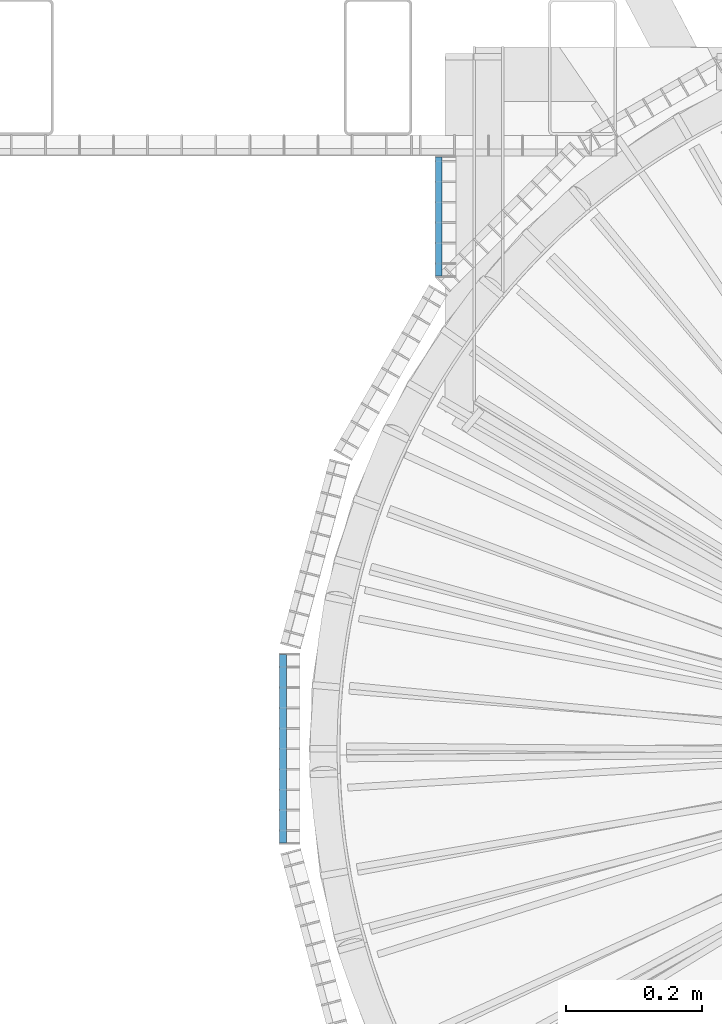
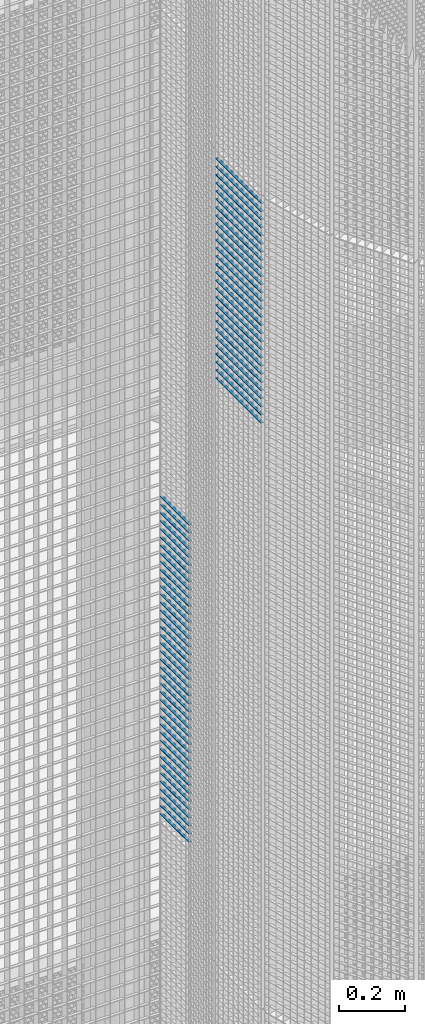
# One storey, part 194 of 1183: 68 beams, 2 elements without a shape of their own.
"""IFC2X3 building model written with IfcOpenShell, lengths in millimetres."""

from ifc_helpers import new_model, si_unit, frame, origin_with_axes, origin_2d_with_axis, place, context, subcontext, project, spatial, rectangle, extrude, material, type_object, element, aggregate, save


model = new_model("IFC2X3")

# Units and contexts
model_context = context("Model", 3, precision=1e-05, world=origin_with_axes())
body_context = subcontext(model_context, "Body", "Model", "MODEL_VIEW")
ifc_project = project(units=[si_unit("LENGTHUNIT", "METRE", prefix="MILLI"), si_unit("AREAUNIT", "SQUARE_METRE"), si_unit("VOLUMEUNIT", "CUBIC_METRE"), si_unit("MASSUNIT", "GRAM", prefix="KILO"), si_unit("TIMEUNIT", "SECOND"), si_unit("PLANEANGLEUNIT", "RADIAN"), si_unit("SOLIDANGLEUNIT", "STERADIAN"), si_unit("THERMODYNAMICTEMPERATUREUNIT", "DEGREE_CELSIUS"), si_unit("LUMINOUSINTENSITYUNIT", "LUMEN")], contexts=[model_context])

# Site, building, storey
site_placement = place(None, origin_with_axes())
site = spatial("IfcSite", under=ifc_project, at=site_placement, Name="Undefined", CompositionType="ELEMENT")
building_placement = place(site_placement, origin_with_axes())
building = spatial("IfcBuilding", under=site, at=building_placement, Name="Undefined", CompositionType="ELEMENT")
storey_placement = place(building_placement, origin_with_axes())
storey = spatial("IfcBuildingStorey", under=building, at=storey_placement, Name="Undefined", CompositionType="ELEMENT", Elevation=0.0)

# Assembly, beams
assembly_1_placement = place(storey_placement, origin_with_axes())
assembly_1 = element("IfcElementAssembly", 1, at=assembly_1_placement, inside=storey, Name="BORDURE", AssemblyPlace="NOTDEFINED", PredefinedType="NOTDEFINED")
ifc_material = material(Name="STEEL/S235JR")
beam_type = type_object("IfcBeamType", Name="PL2*10", PredefinedType="NOTDEFINED")
beam_1_placement = place(assembly_1_placement, frame((-884.882567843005, 867.99701719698, 13200.0), z_axis=(-1.0, 0.0, 0.0), x_axis=(0.0, -1.0, 0.0)))
beam_1 = element("IfcBeam", 2, at=beam_1_placement, type_object=beam_type, material=ifc_material, Name="ENTRETOISE", context=body_context, shape_type="SweptSolid", body=[
    extrude(rectangle(XDim=2.0, YDim=10.0, at=origin_2d_with_axis()), frame((174.109999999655, 0.0, 0.0), z_axis=(-1.0, 0.0, 0.0), x_axis=(0.0, -1.0, 0.0)), (0.0, 0.0, 1.0), 174.11),
])
beam_2_placement = place(assembly_1_placement, frame((-884.882567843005, 867.99701719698, 13170.0), z_axis=(-1.0, 0.0, 0.0), x_axis=(0.0, -1.0, 0.0)))
beam_2 = element("IfcBeam", 3, at=beam_2_placement, type_object=beam_type, material=ifc_material, Name="ENTRETOISE", context=body_context, shape_type="SweptSolid", body=[
    extrude(rectangle(XDim=2.0, YDim=10.0, at=origin_2d_with_axis()), frame((174.109999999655, 0.0, 0.0), z_axis=(-1.0, 0.0, 0.0), x_axis=(0.0, -1.0, 0.0)), (0.0, 0.0, 1.0), 174.11),
])
beam_3_placement = place(assembly_1_placement, frame((-884.882567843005, 867.99701719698, 13140.0), z_axis=(-1.0, 0.0, 0.0), x_axis=(0.0, -1.0, 0.0)))
beam_3 = element("IfcBeam", 4, at=beam_3_placement, type_object=beam_type, material=ifc_material, Name="ENTRETOISE", context=body_context, shape_type="SweptSolid", body=[
    extrude(rectangle(XDim=2.0, YDim=10.0, at=origin_2d_with_axis()), frame((174.109999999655, 0.0, 0.0), z_axis=(-1.0, 0.0, 0.0), x_axis=(0.0, -1.0, 0.0)), (0.0, 0.0, 1.0), 174.11),
])
beam_4_placement = place(assembly_1_placement, frame((-884.882567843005, 867.997017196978, 12720.0), z_axis=(-1.0, 0.0, 0.0), x_axis=(0.0, -1.0, 0.0)))
beam_4 = element("IfcBeam", 5, at=beam_4_placement, type_object=beam_type, material=ifc_material, Name="ENTRETOISE", context=body_context, shape_type="SweptSolid", body=[
    extrude(rectangle(XDim=2.0, YDim=10.0, at=origin_2d_with_axis()), frame((174.109999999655, 0.0, 0.0), z_axis=(-1.0, 0.0, 0.0), x_axis=(0.0, -1.0, 0.0)), (0.0, 0.0, 1.0), 174.11),
])
beam_5_placement = place(assembly_1_placement, frame((-884.882567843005, 867.997017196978, 12690.0), z_axis=(-1.0, 0.0, 0.0), x_axis=(0.0, -1.0, 0.0)))
beam_5 = element("IfcBeam", 6, at=beam_5_placement, type_object=beam_type, material=ifc_material, Name="ENTRETOISE", context=body_context, shape_type="SweptSolid", body=[
    extrude(rectangle(XDim=2.0, YDim=10.0, at=origin_2d_with_axis()), frame((174.109999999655, 0.0, 0.0), z_axis=(-1.0, 0.0, 0.0), x_axis=(0.0, -1.0, 0.0)), (0.0, 0.0, 1.0), 174.11),
])
beam_6_placement = place(assembly_1_placement, frame((-884.882567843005, 867.997017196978, 12750.0), z_axis=(-1.0, 0.0, 0.0), x_axis=(0.0, -1.0, 0.0)))
beam_6 = element("IfcBeam", 7, at=beam_6_placement, type_object=beam_type, material=ifc_material, Name="ENTRETOISE", context=body_context, shape_type="SweptSolid", body=[
    extrude(rectangle(XDim=2.0, YDim=10.0, at=origin_2d_with_axis()), frame((174.109999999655, 0.0, 0.0), z_axis=(-1.0, 0.0, 0.0), x_axis=(0.0, -1.0, 0.0)), (0.0, 0.0, 1.0), 174.11),
])
beam_7_placement = place(assembly_1_placement, frame((-884.882567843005, 867.997017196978, 12660.0), z_axis=(-1.0, 0.0, 0.0), x_axis=(0.0, -1.0, 0.0)))
beam_7 = element("IfcBeam", 8, at=beam_7_placement, type_object=beam_type, material=ifc_material, Name="ENTRETOISE", context=body_context, shape_type="SweptSolid", body=[
    extrude(rectangle(XDim=2.0, YDim=10.0, at=origin_2d_with_axis()), frame((174.109999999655, 0.0, 0.0), z_axis=(-1.0, 0.0, 0.0), x_axis=(0.0, -1.0, 0.0)), (0.0, 0.0, 1.0), 174.11),
])
beam_8_placement = place(assembly_1_placement, frame((-884.882567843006, 867.997017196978, 12630.0), z_axis=(-1.0, 0.0, 0.0), x_axis=(0.0, -1.0, 0.0)))
beam_8 = element("IfcBeam", 9, at=beam_8_placement, type_object=beam_type, material=ifc_material, Name="ENTRETOISE", context=body_context, shape_type="SweptSolid", body=[
    extrude(rectangle(XDim=2.0, YDim=10.0, at=origin_2d_with_axis()), frame((174.109999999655, 0.0, 0.0), z_axis=(-1.0, 0.0, 0.0), x_axis=(0.0, -1.0, 0.0)), (0.0, 0.0, 1.0), 174.11),
])
beam_9_placement = place(assembly_1_placement, frame((-884.882567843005, 867.997017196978, 12780.0), z_axis=(-1.0, 0.0, 0.0), x_axis=(0.0, -1.0, 0.0)))
beam_9 = element("IfcBeam", 10, at=beam_9_placement, type_object=beam_type, material=ifc_material, Name="ENTRETOISE", context=body_context, shape_type="SweptSolid", body=[
    extrude(rectangle(XDim=2.0, YDim=10.0, at=origin_2d_with_axis()), frame((174.109999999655, 0.0, 0.0), z_axis=(-1.0, 0.0, 0.0), x_axis=(0.0, -1.0, 0.0)), (0.0, 0.0, 1.0), 174.11),
])
beam_10_placement = place(assembly_1_placement, frame((-884.882567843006, 867.997017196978, 12600.0), z_axis=(-1.0, 0.0, 0.0), x_axis=(0.0, -1.0, 0.0)))
beam_10 = element("IfcBeam", 11, at=beam_10_placement, type_object=beam_type, material=ifc_material, Name="ENTRETOISE", context=body_context, shape_type="SweptSolid", body=[
    extrude(rectangle(XDim=2.0, YDim=10.0, at=origin_2d_with_axis()), frame((174.109999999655, 0.0, 0.0), z_axis=(-1.0, 0.0, 0.0), x_axis=(0.0, -1.0, 0.0)), (0.0, 0.0, 1.0), 174.11),
])
beam_11_placement = place(assembly_1_placement, frame((-884.882567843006, 867.997017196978, 12810.0), z_axis=(-1.0, 0.0, 0.0), x_axis=(0.0, -1.0, 0.0)))
beam_11 = element("IfcBeam", 12, at=beam_11_placement, type_object=beam_type, material=ifc_material, Name="ENTRETOISE", context=body_context, shape_type="SweptSolid", body=[
    extrude(rectangle(XDim=2.0, YDim=10.0, at=origin_2d_with_axis()), frame((174.109999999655, 0.0, 0.0), z_axis=(-1.0, 0.0, 0.0), x_axis=(0.0, -1.0, 0.0)), (0.0, 0.0, 1.0), 174.11),
])
beam_12_placement = place(assembly_1_placement, frame((-884.882567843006, 867.997017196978, 12570.0), z_axis=(-1.0, 0.0, 0.0), x_axis=(0.0, -1.0, 0.0)))
beam_12 = element("IfcBeam", 13, at=beam_12_placement, type_object=beam_type, material=ifc_material, Name="ENTRETOISE", context=body_context, shape_type="SweptSolid", body=[
    extrude(rectangle(XDim=2.0, YDim=10.0, at=origin_2d_with_axis()), frame((174.109999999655, 0.0, 0.0), z_axis=(-1.0, 0.0, 0.0), x_axis=(0.0, -1.0, 0.0)), (0.0, 0.0, 1.0), 174.11),
])
beam_13_placement = place(assembly_1_placement, frame((-884.882567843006, 867.997017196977, 12540.0), z_axis=(-1.0, 0.0, 0.0), x_axis=(0.0, -1.0, 0.0)))
beam_13 = element("IfcBeam", 14, at=beam_13_placement, type_object=beam_type, material=ifc_material, Name="ENTRETOISE", context=body_context, shape_type="SweptSolid", body=[
    extrude(rectangle(XDim=2.0, YDim=10.0, at=origin_2d_with_axis()), frame((174.109999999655, 0.0, 0.0), z_axis=(-1.0, 0.0, 0.0), x_axis=(0.0, -1.0, 0.0)), (0.0, 0.0, 1.0), 174.11),
])
beam_14_placement = place(assembly_1_placement, frame((-884.882567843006, 867.997017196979, 12840.0), z_axis=(-1.0, 0.0, 0.0), x_axis=(0.0, -1.0, 0.0)))
beam_14 = element("IfcBeam", 15, at=beam_14_placement, type_object=beam_type, material=ifc_material, Name="ENTRETOISE", context=body_context, shape_type="SweptSolid", body=[
    extrude(rectangle(XDim=2.0, YDim=10.0, at=origin_2d_with_axis()), frame((174.109999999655, 0.0, 0.0), z_axis=(-1.0, 0.0, 0.0), x_axis=(0.0, -1.0, 0.0)), (0.0, 0.0, 1.0), 174.11),
])
beam_15_placement = place(assembly_1_placement, frame((-884.882567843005, 867.997017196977, 12510.0), z_axis=(-1.0, 0.0, 0.0), x_axis=(0.0, -1.0, 0.0)))
beam_15 = element("IfcBeam", 16, at=beam_15_placement, type_object=beam_type, material=ifc_material, Name="ENTRETOISE", context=body_context, shape_type="SweptSolid", body=[
    extrude(rectangle(XDim=2.0, YDim=10.0, at=origin_2d_with_axis()), frame((174.109999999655, 0.0, 0.0), z_axis=(-1.0, 0.0, 0.0), x_axis=(0.0, -1.0, 0.0)), (0.0, 0.0, 1.0), 174.11),
])
beam_16_placement = place(assembly_1_placement, frame((-884.882567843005, 867.997017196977, 12480.0), z_axis=(-1.0, 0.0, 0.0), x_axis=(0.0, -1.0, 0.0)))
beam_16 = element("IfcBeam", 17, at=beam_16_placement, type_object=beam_type, material=ifc_material, Name="ENTRETOISE", context=body_context, shape_type="SweptSolid", body=[
    extrude(rectangle(XDim=2.0, YDim=10.0, at=origin_2d_with_axis()), frame((174.109999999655, 0.0, 0.0), z_axis=(-1.0, 0.0, 0.0), x_axis=(0.0, -1.0, 0.0)), (0.0, 0.0, 1.0), 174.11),
])
beam_17_placement = place(assembly_1_placement, frame((-884.882567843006, 867.997017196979, 12870.0), z_axis=(-1.0, 0.0, 0.0), x_axis=(0.0, -1.0, 0.0)))
beam_17 = element("IfcBeam", 18, at=beam_17_placement, type_object=beam_type, material=ifc_material, Name="ENTRETOISE", context=body_context, shape_type="SweptSolid", body=[
    extrude(rectangle(XDim=2.0, YDim=10.0, at=origin_2d_with_axis()), frame((174.109999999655, 0.0, 0.0), z_axis=(-1.0, 0.0, 0.0), x_axis=(0.0, -1.0, 0.0)), (0.0, 0.0, 1.0), 174.11),
])
beam_18_placement = place(assembly_1_placement, frame((-884.882567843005, 867.997017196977, 12450.0), z_axis=(-1.0, 0.0, 0.0), x_axis=(0.0, -1.0, 0.0)))
beam_18 = element("IfcBeam", 19, at=beam_18_placement, type_object=beam_type, material=ifc_material, Name="ENTRETOISE", context=body_context, shape_type="SweptSolid", body=[
    extrude(rectangle(XDim=2.0, YDim=10.0, at=origin_2d_with_axis()), frame((174.109999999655, 0.0, 0.0), z_axis=(-1.0, 0.0, 0.0), x_axis=(0.0, -1.0, 0.0)), (0.0, 0.0, 1.0), 174.11),
])
beam_19_placement = place(assembly_1_placement, frame((-884.882567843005, 867.997017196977, 12420.0), z_axis=(-1.0, 0.0, 0.0), x_axis=(0.0, -1.0, 0.0)))
beam_19 = element("IfcBeam", 20, at=beam_19_placement, type_object=beam_type, material=ifc_material, Name="ENTRETOISE", context=body_context, shape_type="SweptSolid", body=[
    extrude(rectangle(XDim=2.0, YDim=10.0, at=origin_2d_with_axis()), frame((174.109999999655, 0.0, 0.0), z_axis=(-1.0, 0.0, 0.0), x_axis=(0.0, -1.0, 0.0)), (0.0, 0.0, 1.0), 174.11),
])
beam_20_placement = place(assembly_1_placement, frame((-884.882567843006, 867.997017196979, 12900.0), z_axis=(-1.0, 0.0, 0.0), x_axis=(0.0, -1.0, 0.0)))
beam_20 = element("IfcBeam", 21, at=beam_20_placement, type_object=beam_type, material=ifc_material, Name="ENTRETOISE", context=body_context, shape_type="SweptSolid", body=[
    extrude(rectangle(XDim=2.0, YDim=10.0, at=origin_2d_with_axis()), frame((174.109999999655, 0.0, 0.0), z_axis=(-1.0, 0.0, 0.0), x_axis=(0.0, -1.0, 0.0)), (0.0, 0.0, 1.0), 174.11),
])
beam_21_placement = place(assembly_1_placement, frame((-884.882567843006, 867.997017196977, 12390.0), z_axis=(-1.0, 0.0, 0.0), x_axis=(0.0, -1.0, 0.0)))
beam_21 = element("IfcBeam", 22, at=beam_21_placement, type_object=beam_type, material=ifc_material, Name="ENTRETOISE", context=body_context, shape_type="SweptSolid", body=[
    extrude(rectangle(XDim=2.0, YDim=10.0, at=origin_2d_with_axis()), frame((174.109999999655, 0.0, 0.0), z_axis=(-1.0, 0.0, 0.0), x_axis=(0.0, -1.0, 0.0)), (0.0, 0.0, 1.0), 174.11),
])
beam_22_placement = place(assembly_1_placement, frame((-884.882567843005, 867.997017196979, 12930.0), z_axis=(-1.0, 0.0, 0.0), x_axis=(0.0, -1.0, 0.0)))
beam_22 = element("IfcBeam", 23, at=beam_22_placement, type_object=beam_type, material=ifc_material, Name="ENTRETOISE", context=body_context, shape_type="SweptSolid", body=[
    extrude(rectangle(XDim=2.0, YDim=10.0, at=origin_2d_with_axis()), frame((174.109999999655, 0.0, 0.0), z_axis=(-1.0, 0.0, 0.0), x_axis=(0.0, -1.0, 0.0)), (0.0, 0.0, 1.0), 174.11),
])
beam_23_placement = place(assembly_1_placement, frame((-884.882567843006, 867.997017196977, 12360.0), z_axis=(-1.0, 0.0, 0.0), x_axis=(0.0, -1.0, 0.0)))
beam_23 = element("IfcBeam", 24, at=beam_23_placement, type_object=beam_type, material=ifc_material, Name="ENTRETOISE", context=body_context, shape_type="SweptSolid", body=[
    extrude(rectangle(XDim=2.0, YDim=10.0, at=origin_2d_with_axis()), frame((174.109999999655, 0.0, 0.0), z_axis=(-1.0, 0.0, 0.0), x_axis=(0.0, -1.0, 0.0)), (0.0, 0.0, 1.0), 174.11),
])
beam_24_placement = place(assembly_1_placement, frame((-884.882567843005, 867.997017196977, 12330.0), z_axis=(-1.0, 0.0, 0.0), x_axis=(0.0, -1.0, 0.0)))
beam_24 = element("IfcBeam", 25, at=beam_24_placement, type_object=beam_type, material=ifc_material, Name="ENTRETOISE", context=body_context, shape_type="SweptSolid", body=[
    extrude(rectangle(XDim=2.0, YDim=10.0, at=origin_2d_with_axis()), frame((174.109999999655, 0.0, 0.0), z_axis=(-1.0, 0.0, 0.0), x_axis=(0.0, -1.0, 0.0)), (0.0, 0.0, 1.0), 174.11),
])
beam_25_placement = place(assembly_1_placement, frame((-884.882567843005, 867.997017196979, 12960.0), z_axis=(-1.0, 0.0, 0.0), x_axis=(0.0, -1.0, 0.0)))
beam_25 = element("IfcBeam", 26, at=beam_25_placement, type_object=beam_type, material=ifc_material, Name="ENTRETOISE", context=body_context, shape_type="SweptSolid", body=[
    extrude(rectangle(XDim=2.0, YDim=10.0, at=origin_2d_with_axis()), frame((174.109999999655, 0.0, 0.0), z_axis=(-1.0, 0.0, 0.0), x_axis=(0.0, -1.0, 0.0)), (0.0, 0.0, 1.0), 174.11),
])
beam_26_placement = place(assembly_1_placement, frame((-884.882567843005, 867.997017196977, 12300.0), z_axis=(-1.0, 0.0, 0.0), x_axis=(0.0, -1.0, 0.0)))
beam_26 = element("IfcBeam", 27, at=beam_26_placement, type_object=beam_type, material=ifc_material, Name="ENTRETOISE", context=body_context, shape_type="SweptSolid", body=[
    extrude(rectangle(XDim=2.0, YDim=10.0, at=origin_2d_with_axis()), frame((174.109999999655, 0.0, 0.0), z_axis=(-1.0, 0.0, 0.0), x_axis=(0.0, -1.0, 0.0)), (0.0, 0.0, 1.0), 174.11),
])
beam_27_placement = place(assembly_1_placement, frame((-884.882567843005, 867.997017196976, 12270.0), z_axis=(-1.0, 0.0, 0.0), x_axis=(0.0, -1.0, 0.0)))
beam_27 = element("IfcBeam", 28, at=beam_27_placement, type_object=beam_type, material=ifc_material, Name="ENTRETOISE", context=body_context, shape_type="SweptSolid", body=[
    extrude(rectangle(XDim=2.0, YDim=10.0, at=origin_2d_with_axis()), frame((174.109999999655, 0.0, 0.0), z_axis=(-1.0, 0.0, 0.0), x_axis=(0.0, -1.0, 0.0)), (0.0, 0.0, 1.0), 174.11),
])
beam_28_placement = place(assembly_1_placement, frame((-884.882567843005, 867.997017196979, 12990.0), z_axis=(-1.0, 0.0, 0.0), x_axis=(0.0, -1.0, 0.0)))
beam_28 = element("IfcBeam", 29, at=beam_28_placement, type_object=beam_type, material=ifc_material, Name="ENTRETOISE", context=body_context, shape_type="SweptSolid", body=[
    extrude(rectangle(XDim=2.0, YDim=10.0, at=origin_2d_with_axis()), frame((174.109999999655, 0.0, 0.0), z_axis=(-1.0, 0.0, 0.0), x_axis=(0.0, -1.0, 0.0)), (0.0, 0.0, 1.0), 174.11),
])
beam_29_placement = place(assembly_1_placement, frame((-884.882567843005, 867.997017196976, 12240.0), z_axis=(-1.0, 0.0, 0.0), x_axis=(0.0, -1.0, 0.0)))
beam_29 = element("IfcBeam", 30, at=beam_29_placement, type_object=beam_type, material=ifc_material, Name="ENTRETOISE", context=body_context, shape_type="SweptSolid", body=[
    extrude(rectangle(XDim=2.0, YDim=10.0, at=origin_2d_with_axis()), frame((174.109999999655, 0.0, 0.0), z_axis=(-1.0, 0.0, 0.0), x_axis=(0.0, -1.0, 0.0)), (0.0, 0.0, 1.0), 174.11),
])
beam_30_placement = place(assembly_1_placement, frame((-884.882567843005, 867.997017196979, 13020.0), z_axis=(-1.0, 0.0, 0.0), x_axis=(0.0, -1.0, 0.0)))
beam_30 = element("IfcBeam", 31, at=beam_30_placement, type_object=beam_type, material=ifc_material, Name="ENTRETOISE", context=body_context, shape_type="SweptSolid", body=[
    extrude(rectangle(XDim=2.0, YDim=10.0, at=origin_2d_with_axis()), frame((174.109999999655, 0.0, 0.0), z_axis=(-1.0, 0.0, 0.0), x_axis=(0.0, -1.0, 0.0)), (0.0, 0.0, 1.0), 174.11),
])
beam_31_placement = place(assembly_1_placement, frame((-884.882567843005, 867.997017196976, 12210.0), z_axis=(-1.0, 0.0, 0.0), x_axis=(0.0, -1.0, 0.0)))
beam_31 = element("IfcBeam", 32, at=beam_31_placement, type_object=beam_type, material=ifc_material, Name="ENTRETOISE", context=body_context, shape_type="SweptSolid", body=[
    extrude(rectangle(XDim=2.0, YDim=10.0, at=origin_2d_with_axis()), frame((174.109999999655, 0.0, 0.0), z_axis=(-1.0, 0.0, 0.0), x_axis=(0.0, -1.0, 0.0)), (0.0, 0.0, 1.0), 174.11),
])
beam_32_placement = place(assembly_1_placement, frame((-884.882567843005, 867.997017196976, 12180.0), z_axis=(-1.0, 0.0, 0.0), x_axis=(0.0, -1.0, 0.0)))
beam_32 = element("IfcBeam", 33, at=beam_32_placement, type_object=beam_type, material=ifc_material, Name="ENTRETOISE", context=body_context, shape_type="SweptSolid", body=[
    extrude(rectangle(XDim=2.0, YDim=10.0, at=origin_2d_with_axis()), frame((174.109999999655, 0.0, 0.0), z_axis=(-1.0, 0.0, 0.0), x_axis=(0.0, -1.0, 0.0)), (0.0, 0.0, 1.0), 174.11),
])
beam_33_placement = place(assembly_1_placement, frame((-884.882567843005, 867.997017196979, 13050.0), z_axis=(-1.0, 0.0, 0.0), x_axis=(0.0, -1.0, 0.0)))
beam_33 = element("IfcBeam", 34, at=beam_33_placement, type_object=beam_type, material=ifc_material, Name="ENTRETOISE", context=body_context, shape_type="SweptSolid", body=[
    extrude(rectangle(XDim=2.0, YDim=10.0, at=origin_2d_with_axis()), frame((174.109999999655, 0.0, 0.0), z_axis=(-1.0, 0.0, 0.0), x_axis=(0.0, -1.0, 0.0)), (0.0, 0.0, 1.0), 174.11),
])
beam_34_placement = place(assembly_1_placement, frame((-884.882567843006, 867.997017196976, 12150.0), z_axis=(-1.0, 0.0, 0.0), x_axis=(0.0, -1.0, 0.0)))
beam_34 = element("IfcBeam", 35, at=beam_34_placement, type_object=beam_type, material=ifc_material, Name="ENTRETOISE", context=body_context, shape_type="SweptSolid", body=[
    extrude(rectangle(XDim=2.0, YDim=10.0, at=origin_2d_with_axis()), frame((174.109999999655, 0.0, 0.0), z_axis=(-1.0, 0.0, 0.0), x_axis=(0.0, -1.0, 0.0)), (0.0, 0.0, 1.0), 174.11),
])
beam_35_placement = place(assembly_1_placement, frame((-884.882567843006, 867.997017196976, 12120.0), z_axis=(-1.0, 0.0, 0.0), x_axis=(0.0, -1.0, 0.0)))
beam_35 = element("IfcBeam", 36, at=beam_35_placement, type_object=beam_type, material=ifc_material, Name="ENTRETOISE", context=body_context, shape_type="SweptSolid", body=[
    extrude(rectangle(XDim=2.0, YDim=10.0, at=origin_2d_with_axis()), frame((174.109999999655, 0.0, 0.0), z_axis=(-1.0, 0.0, 0.0), x_axis=(0.0, -1.0, 0.0)), (0.0, 0.0, 1.0), 174.11),
])
beam_36_placement = place(assembly_1_placement, frame((-884.882567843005, 867.997017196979, 13080.0), z_axis=(-1.0, 0.0, 0.0), x_axis=(0.0, -1.0, 0.0)))
beam_36 = element("IfcBeam", 37, at=beam_36_placement, type_object=beam_type, material=ifc_material, Name="ENTRETOISE", context=body_context, shape_type="SweptSolid", body=[
    extrude(rectangle(XDim=2.0, YDim=10.0, at=origin_2d_with_axis()), frame((174.109999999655, 0.0, 0.0), z_axis=(-1.0, 0.0, 0.0), x_axis=(0.0, -1.0, 0.0)), (0.0, 0.0, 1.0), 174.11),
])
beam_37_placement = place(assembly_1_placement, frame((-884.882567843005, 867.997017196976, 12090.0), z_axis=(-1.0, 0.0, 0.0), x_axis=(0.0, -1.0, 0.0)))
beam_37 = element("IfcBeam", 38, at=beam_37_placement, type_object=beam_type, material=ifc_material, Name="ENTRETOISE", context=body_context, shape_type="SweptSolid", body=[
    extrude(rectangle(XDim=2.0, YDim=10.0, at=origin_2d_with_axis()), frame((174.109999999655, 0.0, 0.0), z_axis=(-1.0, 0.0, 0.0), x_axis=(0.0, -1.0, 0.0)), (0.0, 0.0, 1.0), 174.11),
])
beam_38_placement = place(assembly_1_placement, frame((-884.882567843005, 867.997017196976, 12060.0), z_axis=(-1.0, 0.0, 0.0), x_axis=(0.0, -1.0, 0.0)))
beam_38 = element("IfcBeam", 39, at=beam_38_placement, type_object=beam_type, material=ifc_material, Name="ENTRETOISE", context=body_context, shape_type="SweptSolid", body=[
    extrude(rectangle(XDim=2.0, YDim=10.0, at=origin_2d_with_axis()), frame((174.109999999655, 0.0, 0.0), z_axis=(-1.0, 0.0, 0.0), x_axis=(0.0, -1.0, 0.0)), (0.0, 0.0, 1.0), 174.11),
])
beam_39_placement = place(assembly_1_placement, frame((-884.882567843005, 867.99701719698, 13110.0), z_axis=(-1.0, 0.0, 0.0), x_axis=(0.0, -1.0, 0.0)))
beam_39 = element("IfcBeam", 40, at=beam_39_placement, type_object=beam_type, material=ifc_material, Name="ENTRETOISE", context=body_context, shape_type="SweptSolid", body=[
    extrude(rectangle(XDim=2.0, YDim=10.0, at=origin_2d_with_axis()), frame((174.109999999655, 0.0, 0.0), z_axis=(-1.0, 0.0, 0.0), x_axis=(0.0, -1.0, 0.0)), (0.0, 0.0, 1.0), 174.11),
])
beam_40_placement = place(assembly_1_placement, frame((-884.882567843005, 867.997017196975, 12030.0), z_axis=(-1.0, 0.0, 0.0), x_axis=(0.0, -1.0, 0.0)))
beam_40 = element("IfcBeam", 41, at=beam_40_placement, type_object=beam_type, material=ifc_material, Name="ENTRETOISE", context=body_context, shape_type="SweptSolid", body=[
    extrude(rectangle(XDim=2.0, YDim=10.0, at=origin_2d_with_axis()), frame((174.109999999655, 0.0, 0.0), z_axis=(-1.0, 0.0, 0.0), x_axis=(0.0, -1.0, 0.0)), (0.0, 0.0, 1.0), 174.11),
])
aggregate(assembly_1, [beam_1, beam_2, beam_3, beam_4, beam_5, beam_6, beam_7, beam_8, beam_9, beam_10, beam_11, beam_12, beam_13, beam_14, beam_15, beam_16, beam_17, beam_18, beam_19, beam_20, beam_21, beam_22, beam_23, beam_24, beam_25, beam_26, beam_27, beam_28, beam_29, beam_30, beam_31, beam_32, beam_33, beam_34, beam_35, beam_36, beam_37, beam_38, beam_39, beam_40])

assembly_2_placement = place(storey_placement, origin_with_axes())
assembly_2 = element("IfcElementAssembly", 42, at=assembly_2_placement, inside=storey, Name="BORDURE", AssemblyPlace="NOTDEFINED", PredefinedType="NOTDEFINED")
beam_41_placement = place(assembly_2_placement, frame((-1113.47999999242, 137.996003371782, 14970.0), z_axis=(-1.0, 0.0, 0.0), x_axis=(0.0, -1.0, 0.0)))
beam_41 = element("IfcBeam", 43, at=beam_41_placement, type_object=beam_type, material=ifc_material, Name="ENTRETOISE", context=body_context, shape_type="SweptSolid", body=[
    extrude(rectangle(XDim=2.0, YDim=10.0, at=origin_2d_with_axis()), frame((275.999999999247, 9.09494701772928e-13, 1.53210777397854e-14), z_axis=(-1.0, 0.0, 0.0), x_axis=(0.0, -1.0, 0.0)), (0.0, 0.0, 1.0), 276.0),
])
beam_42_placement = place(assembly_2_placement, frame((-1113.47999999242, 137.996003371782, 14940.0), z_axis=(-1.0, 0.0, 0.0), x_axis=(0.0, -1.0, 0.0)))
beam_42 = element("IfcBeam", 44, at=beam_42_placement, type_object=beam_type, material=ifc_material, Name="ENTRETOISE", context=body_context, shape_type="SweptSolid", body=[
    extrude(rectangle(XDim=2.0, YDim=10.0, at=origin_2d_with_axis()), frame((275.999999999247, 9.09494701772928e-13, 1.53210777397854e-14), z_axis=(-1.0, 0.0, 0.0), x_axis=(0.0, -1.0, 0.0)), (0.0, 0.0, 1.0), 276.0),
])
beam_43_placement = place(assembly_2_placement, frame((-1113.47999999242, 137.996003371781, 14910.0), z_axis=(-1.0, 0.0, 0.0), x_axis=(0.0, -1.0, 0.0)))
beam_43 = element("IfcBeam", 45, at=beam_43_placement, type_object=beam_type, material=ifc_material, Name="ENTRETOISE", context=body_context, shape_type="SweptSolid", body=[
    extrude(rectangle(XDim=2.0, YDim=10.0, at=origin_2d_with_axis()), frame((275.999999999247, 9.09494701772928e-13, 1.53210777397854e-14), z_axis=(-1.0, 0.0, 0.0), x_axis=(0.0, -1.0, 0.0)), (0.0, 0.0, 1.0), 276.0),
])
beam_44_placement = place(assembly_2_placement, frame((-1113.47999999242, 137.996003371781, 14880.0), z_axis=(-1.0, 0.0, 0.0), x_axis=(0.0, -1.0, 0.0)))
beam_44 = element("IfcBeam", 46, at=beam_44_placement, type_object=beam_type, material=ifc_material, Name="ENTRETOISE", context=body_context, shape_type="SweptSolid", body=[
    extrude(rectangle(XDim=2.0, YDim=10.0, at=origin_2d_with_axis()), frame((275.999999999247, 9.09494701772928e-13, 1.53210777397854e-14), z_axis=(-1.0, 0.0, 0.0), x_axis=(0.0, -1.0, 0.0)), (0.0, 0.0, 1.0), 276.0),
])
beam_45_placement = place(assembly_2_placement, frame((-1113.47999999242, 137.996003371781, 14850.0), z_axis=(-1.0, 0.0, 0.0), x_axis=(0.0, -1.0, 0.0)))
beam_45 = element("IfcBeam", 47, at=beam_45_placement, type_object=beam_type, material=ifc_material, Name="ENTRETOISE", context=body_context, shape_type="SweptSolid", body=[
    extrude(rectangle(XDim=2.0, YDim=10.0, at=origin_2d_with_axis()), frame((275.999999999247, 9.09494701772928e-13, 1.53210777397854e-14), z_axis=(-1.0, 0.0, 0.0), x_axis=(0.0, -1.0, 0.0)), (0.0, 0.0, 1.0), 276.0),
])
beam_46_placement = place(assembly_2_placement, frame((-1113.47999999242, 137.996003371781, 14820.0), z_axis=(-1.0, 0.0, 0.0), x_axis=(0.0, -1.0, 0.0)))
beam_46 = element("IfcBeam", 48, at=beam_46_placement, type_object=beam_type, material=ifc_material, Name="ENTRETOISE", context=body_context, shape_type="SweptSolid", body=[
    extrude(rectangle(XDim=2.0, YDim=10.0, at=origin_2d_with_axis()), frame((275.999999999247, 9.09494701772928e-13, 1.53210777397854e-14), z_axis=(-1.0, 0.0, 0.0), x_axis=(0.0, -1.0, 0.0)), (0.0, 0.0, 1.0), 276.0),
])
beam_47_placement = place(assembly_2_placement, frame((-1113.47999999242, 137.996003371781, 14790.0), z_axis=(-1.0, 0.0, 0.0), x_axis=(0.0, -1.0, 0.0)))
beam_47 = element("IfcBeam", 49, at=beam_47_placement, type_object=beam_type, material=ifc_material, Name="ENTRETOISE", context=body_context, shape_type="SweptSolid", body=[
    extrude(rectangle(XDim=2.0, YDim=10.0, at=origin_2d_with_axis()), frame((275.999999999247, 9.09494701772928e-13, 1.53210777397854e-14), z_axis=(-1.0, 0.0, 0.0), x_axis=(0.0, -1.0, 0.0)), (0.0, 0.0, 1.0), 276.0),
])
beam_48_placement = place(assembly_2_placement, frame((-1113.47999999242, 137.996003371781, 14760.0), z_axis=(-1.0, 0.0, 0.0), x_axis=(0.0, -1.0, 0.0)))
beam_48 = element("IfcBeam", 50, at=beam_48_placement, type_object=beam_type, material=ifc_material, Name="ENTRETOISE", context=body_context, shape_type="SweptSolid", body=[
    extrude(rectangle(XDim=2.0, YDim=10.0, at=origin_2d_with_axis()), frame((275.999999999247, 9.09494701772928e-13, 1.53210777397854e-14), z_axis=(-1.0, 0.0, 0.0), x_axis=(0.0, -1.0, 0.0)), (0.0, 0.0, 1.0), 276.0),
])
beam_49_placement = place(assembly_2_placement, frame((-1113.47999999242, 137.996003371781, 14730.0), z_axis=(-1.0, 0.0, 0.0), x_axis=(0.0, -1.0, 0.0)))
beam_49 = element("IfcBeam", 51, at=beam_49_placement, type_object=beam_type, material=ifc_material, Name="ENTRETOISE", context=body_context, shape_type="SweptSolid", body=[
    extrude(rectangle(XDim=2.0, YDim=10.0, at=origin_2d_with_axis()), frame((275.999999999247, 9.09494701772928e-13, 1.53210777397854e-14), z_axis=(-1.0, 0.0, 0.0), x_axis=(0.0, -1.0, 0.0)), (0.0, 0.0, 1.0), 276.0),
])
beam_50_placement = place(assembly_2_placement, frame((-1113.47999999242, 137.996003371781, 14700.0), z_axis=(-1.0, 0.0, 0.0), x_axis=(0.0, -1.0, 0.0)))
beam_50 = element("IfcBeam", 52, at=beam_50_placement, type_object=beam_type, material=ifc_material, Name="ENTRETOISE", context=body_context, shape_type="SweptSolid", body=[
    extrude(rectangle(XDim=2.0, YDim=10.0, at=origin_2d_with_axis()), frame((275.999999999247, 9.09494701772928e-13, 1.53210777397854e-14), z_axis=(-1.0, 0.0, 0.0), x_axis=(0.0, -1.0, 0.0)), (0.0, 0.0, 1.0), 276.0),
])
beam_51_placement = place(assembly_2_placement, frame((-1113.47999999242, 137.996003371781, 14670.0), z_axis=(-1.0, 0.0, 0.0), x_axis=(0.0, -1.0, 0.0)))
beam_51 = element("IfcBeam", 53, at=beam_51_placement, type_object=beam_type, material=ifc_material, Name="ENTRETOISE", context=body_context, shape_type="SweptSolid", body=[
    extrude(rectangle(XDim=2.0, YDim=10.0, at=origin_2d_with_axis()), frame((275.999999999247, 9.09494701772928e-13, 1.53210777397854e-14), z_axis=(-1.0, 0.0, 0.0), x_axis=(0.0, -1.0, 0.0)), (0.0, 0.0, 1.0), 276.0),
])
beam_52_placement = place(assembly_2_placement, frame((-1113.47999999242, 137.99600337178, 14640.0), z_axis=(-1.0, 0.0, 0.0), x_axis=(0.0, -1.0, 0.0)))
beam_52 = element("IfcBeam", 54, at=beam_52_placement, type_object=beam_type, material=ifc_material, Name="ENTRETOISE", context=body_context, shape_type="SweptSolid", body=[
    extrude(rectangle(XDim=2.0, YDim=10.0, at=origin_2d_with_axis()), frame((275.999999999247, 9.09494701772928e-13, 1.53210777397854e-14), z_axis=(-1.0, 0.0, 0.0), x_axis=(0.0, -1.0, 0.0)), (0.0, 0.0, 1.0), 276.0),
])
beam_53_placement = place(assembly_2_placement, frame((-1113.47999999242, 137.99600337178, 14610.0), z_axis=(-1.0, 0.0, 0.0), x_axis=(0.0, -1.0, 0.0)))
beam_53 = element("IfcBeam", 55, at=beam_53_placement, type_object=beam_type, material=ifc_material, Name="ENTRETOISE", context=body_context, shape_type="SweptSolid", body=[
    extrude(rectangle(XDim=2.0, YDim=10.0, at=origin_2d_with_axis()), frame((275.999999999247, 9.09494701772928e-13, 1.53210777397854e-14), z_axis=(-1.0, 0.0, 0.0), x_axis=(0.0, -1.0, 0.0)), (0.0, 0.0, 1.0), 276.0),
])
beam_54_placement = place(assembly_2_placement, frame((-1113.47999999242, 137.99600337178, 14580.0), z_axis=(-1.0, 0.0, 0.0), x_axis=(0.0, -1.0, 0.0)))
beam_54 = element("IfcBeam", 56, at=beam_54_placement, type_object=beam_type, material=ifc_material, Name="ENTRETOISE", context=body_context, shape_type="SweptSolid", body=[
    extrude(rectangle(XDim=2.0, YDim=10.0, at=origin_2d_with_axis()), frame((275.999999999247, 9.09494701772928e-13, 1.53210777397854e-14), z_axis=(-1.0, 0.0, 0.0), x_axis=(0.0, -1.0, 0.0)), (0.0, 0.0, 1.0), 276.0),
])
beam_55_placement = place(assembly_2_placement, frame((-1113.47999999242, 137.99600337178, 14550.0), z_axis=(-1.0, 0.0, 0.0), x_axis=(0.0, -1.0, 0.0)))
beam_55 = element("IfcBeam", 57, at=beam_55_placement, type_object=beam_type, material=ifc_material, Name="ENTRETOISE", context=body_context, shape_type="SweptSolid", body=[
    extrude(rectangle(XDim=2.0, YDim=10.0, at=origin_2d_with_axis()), frame((275.999999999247, 9.09494701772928e-13, 1.53210777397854e-14), z_axis=(-1.0, 0.0, 0.0), x_axis=(0.0, -1.0, 0.0)), (0.0, 0.0, 1.0), 276.0),
])
beam_56_placement = place(assembly_2_placement, frame((-1113.47999999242, 137.99600337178, 14520.0), z_axis=(-1.0, 0.0, 0.0), x_axis=(0.0, -1.0, 0.0)))
beam_56 = element("IfcBeam", 58, at=beam_56_placement, type_object=beam_type, material=ifc_material, Name="ENTRETOISE", context=body_context, shape_type="SweptSolid", body=[
    extrude(rectangle(XDim=2.0, YDim=10.0, at=origin_2d_with_axis()), frame((275.999999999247, 9.09494701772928e-13, 1.53210777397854e-14), z_axis=(-1.0, 0.0, 0.0), x_axis=(0.0, -1.0, 0.0)), (0.0, 0.0, 1.0), 276.0),
])
beam_57_placement = place(assembly_2_placement, frame((-1113.47999999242, 137.99600337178, 14490.0), z_axis=(-1.0, 0.0, 0.0), x_axis=(0.0, -1.0, 0.0)))
beam_57 = element("IfcBeam", 59, at=beam_57_placement, type_object=beam_type, material=ifc_material, Name="ENTRETOISE", context=body_context, shape_type="SweptSolid", body=[
    extrude(rectangle(XDim=2.0, YDim=10.0, at=origin_2d_with_axis()), frame((275.999999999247, 9.09494701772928e-13, 1.53210777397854e-14), z_axis=(-1.0, 0.0, 0.0), x_axis=(0.0, -1.0, 0.0)), (0.0, 0.0, 1.0), 276.0),
])
beam_58_placement = place(assembly_2_placement, frame((-1113.47999999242, 137.99600337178, 14460.0), z_axis=(-1.0, 0.0, 0.0), x_axis=(0.0, -1.0, 0.0)))
beam_58 = element("IfcBeam", 60, at=beam_58_placement, type_object=beam_type, material=ifc_material, Name="ENTRETOISE", context=body_context, shape_type="SweptSolid", body=[
    extrude(rectangle(XDim=2.0, YDim=10.0, at=origin_2d_with_axis()), frame((275.999999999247, 9.09494701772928e-13, 1.53210777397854e-14), z_axis=(-1.0, 0.0, 0.0), x_axis=(0.0, -1.0, 0.0)), (0.0, 0.0, 1.0), 276.0),
])
beam_59_placement = place(assembly_2_placement, frame((-1113.47999999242, 137.99600337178, 14430.0), z_axis=(-1.0, 0.0, 0.0), x_axis=(0.0, -1.0, 0.0)))
beam_59 = element("IfcBeam", 61, at=beam_59_placement, type_object=beam_type, material=ifc_material, Name="ENTRETOISE", context=body_context, shape_type="SweptSolid", body=[
    extrude(rectangle(XDim=2.0, YDim=10.0, at=origin_2d_with_axis()), frame((275.999999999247, 9.09494701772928e-13, 1.53210777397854e-14), z_axis=(-1.0, 0.0, 0.0), x_axis=(0.0, -1.0, 0.0)), (0.0, 0.0, 1.0), 276.0),
])
beam_60_placement = place(assembly_2_placement, frame((-1113.47999999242, 137.99600337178, 14400.0), z_axis=(-1.0, 0.0, 0.0), x_axis=(0.0, -1.0, 0.0)))
beam_60 = element("IfcBeam", 62, at=beam_60_placement, type_object=beam_type, material=ifc_material, Name="ENTRETOISE", context=body_context, shape_type="SweptSolid", body=[
    extrude(rectangle(XDim=2.0, YDim=10.0, at=origin_2d_with_axis()), frame((275.999999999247, 9.09494701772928e-13, 1.53210777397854e-14), z_axis=(-1.0, 0.0, 0.0), x_axis=(0.0, -1.0, 0.0)), (0.0, 0.0, 1.0), 276.0),
])
beam_61_placement = place(assembly_2_placement, frame((-1113.47999999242, 137.996003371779, 14370.0), z_axis=(-1.0, 0.0, 0.0), x_axis=(0.0, -1.0, 0.0)))
beam_61 = element("IfcBeam", 63, at=beam_61_placement, type_object=beam_type, material=ifc_material, Name="ENTRETOISE", context=body_context, shape_type="SweptSolid", body=[
    extrude(rectangle(XDim=2.0, YDim=10.0, at=origin_2d_with_axis()), frame((275.999999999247, 9.09494701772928e-13, 1.53210777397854e-14), z_axis=(-1.0, 0.0, 0.0), x_axis=(0.0, -1.0, 0.0)), (0.0, 0.0, 1.0), 276.0),
])
beam_62_placement = place(assembly_2_placement, frame((-1113.47999999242, 137.996003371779, 14340.0), z_axis=(-1.0, 0.0, 0.0), x_axis=(0.0, -1.0, 0.0)))
beam_62 = element("IfcBeam", 64, at=beam_62_placement, type_object=beam_type, material=ifc_material, Name="ENTRETOISE", context=body_context, shape_type="SweptSolid", body=[
    extrude(rectangle(XDim=2.0, YDim=10.0, at=origin_2d_with_axis()), frame((275.999999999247, 9.09494701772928e-13, 1.53210777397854e-14), z_axis=(-1.0, 0.0, 0.0), x_axis=(0.0, -1.0, 0.0)), (0.0, 0.0, 1.0), 276.0),
])
beam_63_placement = place(assembly_2_placement, frame((-1113.47999999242, 137.996003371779, 14310.0), z_axis=(-1.0, 0.0, 0.0), x_axis=(0.0, -1.0, 0.0)))
beam_63 = element("IfcBeam", 65, at=beam_63_placement, type_object=beam_type, material=ifc_material, Name="ENTRETOISE", context=body_context, shape_type="SweptSolid", body=[
    extrude(rectangle(XDim=2.0, YDim=10.0, at=origin_2d_with_axis()), frame((275.999999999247, 9.09494701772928e-13, 1.53210777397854e-14), z_axis=(-1.0, 0.0, 0.0), x_axis=(0.0, -1.0, 0.0)), (0.0, 0.0, 1.0), 276.0),
])
beam_64_placement = place(assembly_2_placement, frame((-1113.47999999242, 137.996003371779, 14280.0), z_axis=(-1.0, 0.0, 0.0), x_axis=(0.0, -1.0, 0.0)))
beam_64 = element("IfcBeam", 66, at=beam_64_placement, type_object=beam_type, material=ifc_material, Name="ENTRETOISE", context=body_context, shape_type="SweptSolid", body=[
    extrude(rectangle(XDim=2.0, YDim=10.0, at=origin_2d_with_axis()), frame((275.999999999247, 9.09494701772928e-13, 1.53210777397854e-14), z_axis=(-1.0, 0.0, 0.0), x_axis=(0.0, -1.0, 0.0)), (0.0, 0.0, 1.0), 276.0),
])
beam_65_placement = place(assembly_2_placement, frame((-1113.47999999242, 137.996003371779, 14250.0), z_axis=(-1.0, 0.0, 0.0), x_axis=(0.0, -1.0, 0.0)))
beam_65 = element("IfcBeam", 67, at=beam_65_placement, type_object=beam_type, material=ifc_material, Name="ENTRETOISE", context=body_context, shape_type="SweptSolid", body=[
    extrude(rectangle(XDim=2.0, YDim=10.0, at=origin_2d_with_axis()), frame((275.999999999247, 9.09494701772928e-13, 1.53210777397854e-14), z_axis=(-1.0, 0.0, 0.0), x_axis=(0.0, -1.0, 0.0)), (0.0, 0.0, 1.0), 276.0),
])
beam_66_placement = place(assembly_2_placement, frame((-1113.47999999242, 137.996003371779, 14220.0), z_axis=(-1.0, 0.0, 0.0), x_axis=(0.0, -1.0, 0.0)))
beam_66 = element("IfcBeam", 68, at=beam_66_placement, type_object=beam_type, material=ifc_material, Name="ENTRETOISE", context=body_context, shape_type="SweptSolid", body=[
    extrude(rectangle(XDim=2.0, YDim=10.0, at=origin_2d_with_axis()), frame((275.999999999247, 9.09494701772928e-13, 1.53210777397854e-14), z_axis=(-1.0, 0.0, 0.0), x_axis=(0.0, -1.0, 0.0)), (0.0, 0.0, 1.0), 276.0),
])
beam_67_placement = place(assembly_2_placement, frame((-1113.47999999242, 137.996003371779, 14190.0), z_axis=(-1.0, 0.0, 0.0), x_axis=(0.0, -1.0, 0.0)))
beam_67 = element("IfcBeam", 69, at=beam_67_placement, type_object=beam_type, material=ifc_material, Name="ENTRETOISE", context=body_context, shape_type="SweptSolid", body=[
    extrude(rectangle(XDim=2.0, YDim=10.0, at=origin_2d_with_axis()), frame((275.999999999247, 9.09494701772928e-13, 1.53210777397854e-14), z_axis=(-1.0, 0.0, 0.0), x_axis=(0.0, -1.0, 0.0)), (0.0, 0.0, 1.0), 276.0),
])
beam_68_placement = place(assembly_2_placement, frame((-1113.47999999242, 137.996003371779, 14160.0), z_axis=(-1.0, 0.0, 0.0), x_axis=(0.0, -1.0, 0.0)))
beam_68 = element("IfcBeam", 70, at=beam_68_placement, type_object=beam_type, material=ifc_material, Name="ENTRETOISE", context=body_context, shape_type="SweptSolid", body=[
    extrude(rectangle(XDim=2.0, YDim=10.0, at=origin_2d_with_axis()), frame((275.999999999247, 9.09494701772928e-13, 1.53210777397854e-14), z_axis=(-1.0, 0.0, 0.0), x_axis=(0.0, -1.0, 0.0)), (0.0, 0.0, 1.0), 276.0),
])
aggregate(assembly_2, [beam_41, beam_42, beam_43, beam_44, beam_45, beam_46, beam_47, beam_48, beam_49, beam_50, beam_51, beam_52, beam_53, beam_54, beam_55, beam_56, beam_57, beam_58, beam_59, beam_60, beam_61, beam_62, beam_63, beam_64, beam_65, beam_66, beam_67, beam_68])

save(model, "model.ifc")
